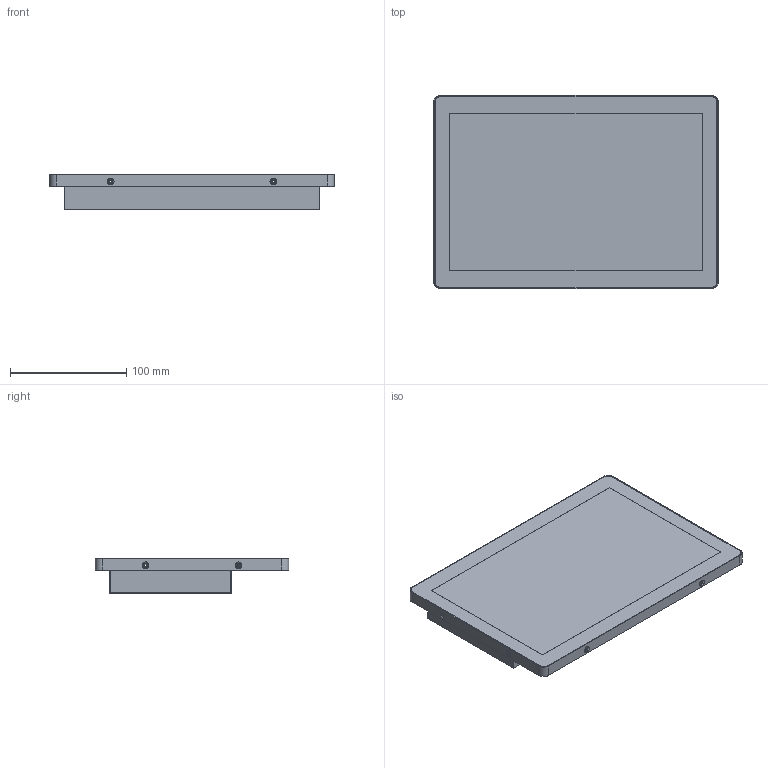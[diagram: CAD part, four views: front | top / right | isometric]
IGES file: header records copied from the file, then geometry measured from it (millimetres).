
Global section: file name: FIE101FM-P; native system: AutoCAD 2019 – 繁體中文 (Traditional Chinese),62HAutode; preprocessor: sk Translation Framework DWG producer (atf_dwg_producer); organization: unknown; date: 20210615.132118; units: millimetre
Bounding box: 244.63 x 166.5 x 30 mm (x, y, z)
Volume: 150868.8 mm3; surface area: 350792.6 mm2
Topology: 14 solids, 14 shells, 470 faces, 1250 edges, 827 vertices
Faces by surface type: bspline 470
